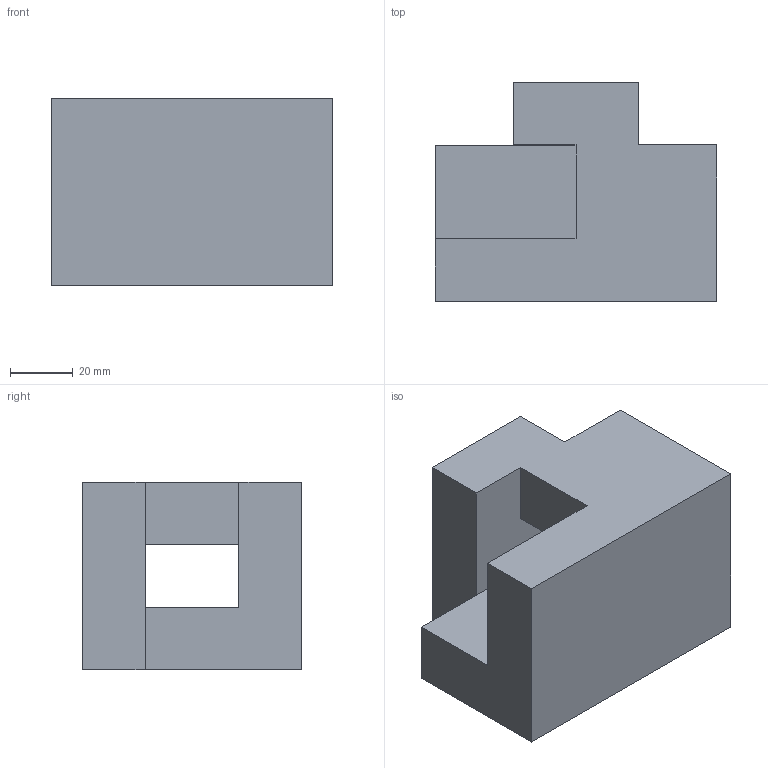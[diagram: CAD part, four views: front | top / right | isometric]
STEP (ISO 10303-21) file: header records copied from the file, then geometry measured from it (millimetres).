
FILE_DESCRIPTION(/* description */ (''),/* implementation_level */ '2;1');
FILE_NAME(/* time_stamp */ '2020-06-16T15:00:42+01:00',/* author */ ('DesignClass.co.uk'),/* originating_system */ 'Solidworks 2021',/* authorisation */ '');
FILE_SCHEMA (('AUTOMOTIVE_DESIGN { 1 0 10303 214 3 1 1 }'));
Length unit declared in the file: millimetre
Products named in the file (1): Task_5
Bounding box: 90 x 70 x 60 mm (x, y, z)
Volume: 210000 mm3; surface area: 31800 mm2
Topology: 1 solids, 1 shells, 16 faces, 46 edges, 30 vertices
Faces by surface type: plane 16
Entity records: 559 total; most frequent: CARTESIAN_POINT 93, ORIENTED_EDGE 92, DIRECTION 80, LINE 46, VECTOR 46, EDGE_CURVE 46, VERTEX_POINT 30, AXIS2_PLACEMENT_3D 17
